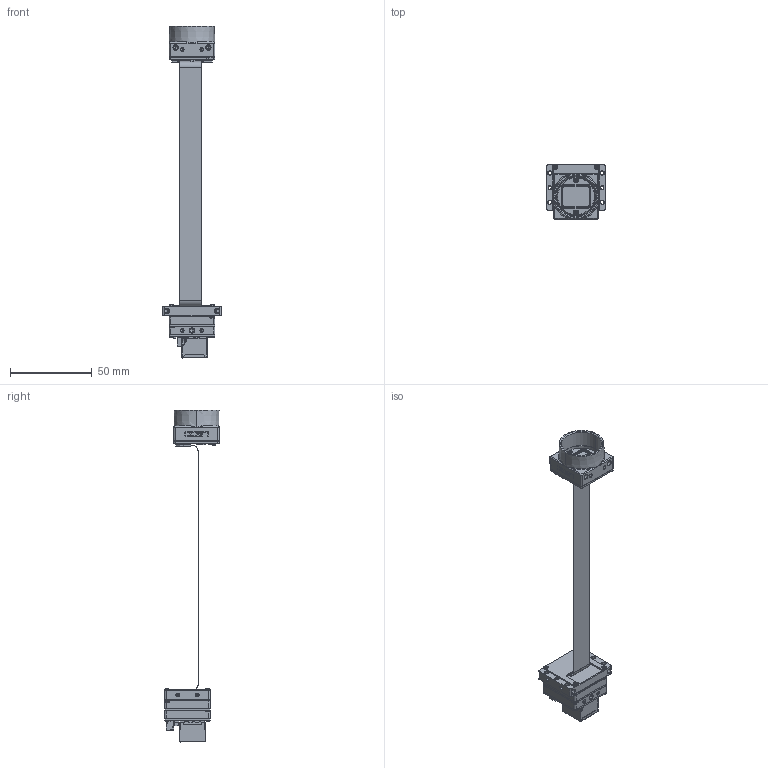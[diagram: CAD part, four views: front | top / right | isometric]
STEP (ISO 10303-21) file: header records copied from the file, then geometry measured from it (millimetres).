
FILE_DESCRIPTION (( 'STEP AP203' ), '1' );
FILE_NAME ('108-526-A_RJ45.STEP', '2024-05-07T07:00:05', ( '' ), ( '' ), 'SwSTEP 2.0', 'SolidWorks 2021', '' );
FILE_SCHEMA (( 'CONFIG_CONTROL_DESIGN' ));
Products named in the file (1): 108-526-A_RJ45
Bounding box: 36 x 33.65 x 203.51 mm (x, y, z)
Volume: 14723.4 mm3; surface area: 32852 mm2
Topology: 211 solids, 211 shells, 9212 faces, 23736 edges, 14609 vertices
Faces by surface type: plane 5590, cylinder 2396, bspline 649, cone 368, torus 137, sphere 72
Entity records: 281884 total; most frequent: CARTESIAN_POINT 61527, ORIENTED_EDGE 46336, DIRECTION 44558, EDGE_CURVE 23168, LINE 17208, VECTOR 17208, VERTEX_POINT 14599, AXIS2_PLACEMENT_3D 13675
